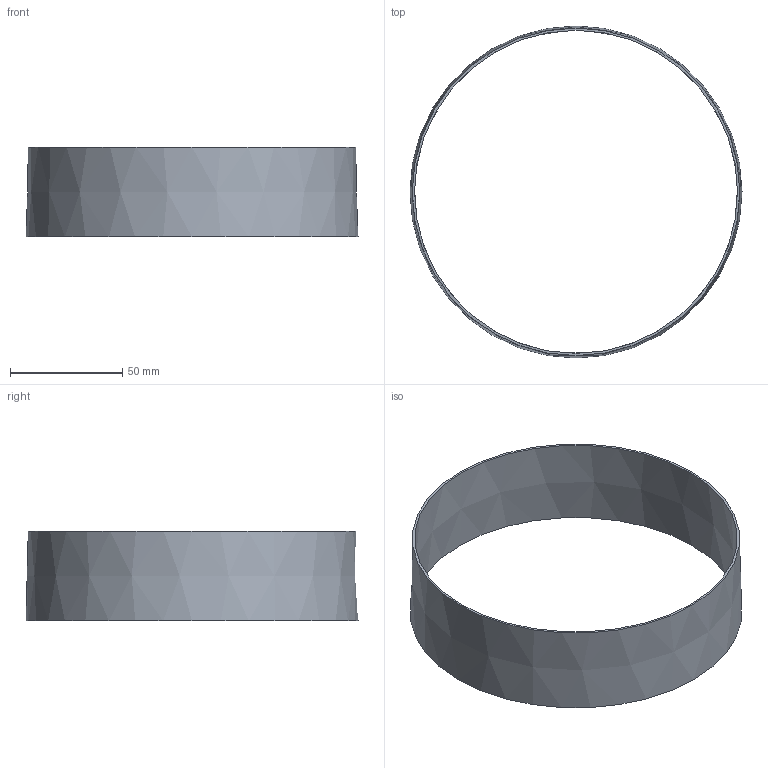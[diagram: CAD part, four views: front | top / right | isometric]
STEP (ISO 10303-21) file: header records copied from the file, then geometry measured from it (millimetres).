
FILE_DESCRIPTION( ( 'STEP AP214' ), '1' );
FILE_NAME( 'C:/Users/ilukic/Documents/ex/gebaudeentwasserung/pe/Geberit PE support ring/359464.stp', '2020-03-26T18:41:23', ( '' ), ( '' ), ' ', 'PARTsolutions', ' ' );
FILE_SCHEMA( ( 'AUTOMOTIVE_DESIGN { 1 0 10303 214 1 1 1 1 }' ) );
Length unit declared in the file: millimetre
Products named in the file (1): _359464
Bounding box: 147.6 x 147.6 x 40 mm (x, y, z)
Volume: 18302.5 mm3; surface area: 37520.1 mm2
Topology: 1 solids, 1 shells, 4 faces, 6 edges, 4 vertices
Faces by surface type: cone 2, plane 2
Entity records: 136 total; most frequent: DIRECTION 18, CARTESIAN_POINT 13, AXIS2_PLACEMENT_3D 9, EDGE_LOOP 8, ORIENTED_EDGE 8, STYLED_ITEM 4, PRESENTATION_STYLE_ASSIGNMENT 4, ADVANCED_FACE 4
